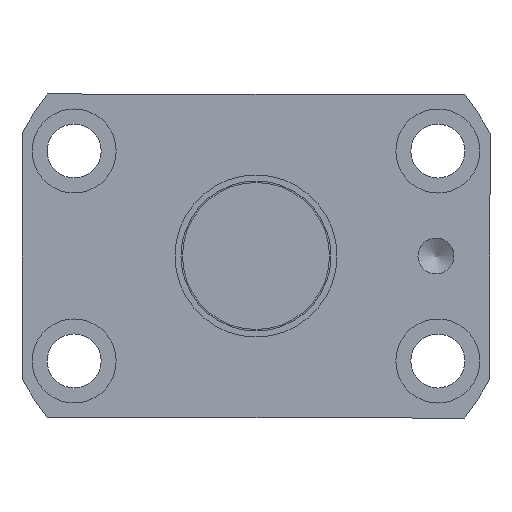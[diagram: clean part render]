
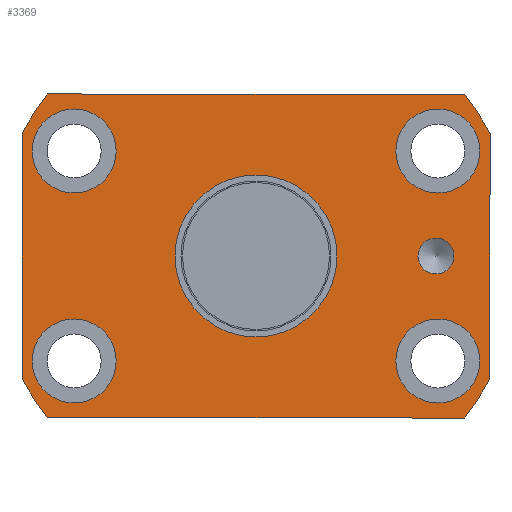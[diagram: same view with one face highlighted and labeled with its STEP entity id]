
A CAD part, left-side view. The second image highlights one B-rep face of the part: STEP entity #3369.
In plain terms, the highlighted planar face has unit normal (-1, 0, 0).
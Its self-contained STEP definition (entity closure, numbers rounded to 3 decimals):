
#375=CARTESIAN_POINT('',(723.315,-27.,0.));
#376=VERTEX_POINT('',#375);
#377=CARTESIAN_POINT('',(723.315,-30.0,0.));
#378=DIRECTION('',(1.0,0.0,0.0));
#379=DIRECTION('',(0.0,1.0,0.0));
#380=AXIS2_PLACEMENT_3D('',#377,#378,#379);
#381=CIRCLE('',#380,3.);
#382=EDGE_CURVE('',#376,#376,#381,.T.);
#516=CARTESIAN_POINT('',(723.315,37.311,-17.5));
#517=VERTEX_POINT('',#516);
#518=CARTESIAN_POINT('',(723.315,30.311,-17.5));
#519=DIRECTION('',(1.0,0.0,0.0));
#520=DIRECTION('',(0.0,1.0,0.0));
#521=AXIS2_PLACEMENT_3D('',#518,#519,#520);
#522=CIRCLE('',#521,7.);
#523=EDGE_CURVE('',#517,#517,#522,.T.);
#584=CARTESIAN_POINT('',(723.315,-23.311,17.5));
#585=VERTEX_POINT('',#584);
#586=CARTESIAN_POINT('',(723.315,-30.311,17.5));
#587=DIRECTION('',(1.0,0.0,0.0));
#588=DIRECTION('',(0.0,1.0,0.0));
#589=AXIS2_PLACEMENT_3D('',#586,#587,#588);
#590=CIRCLE('',#589,7.);
#591=EDGE_CURVE('',#585,#585,#590,.T.);
#652=CARTESIAN_POINT('',(723.315,-23.311,-17.5));
#653=VERTEX_POINT('',#652);
#654=CARTESIAN_POINT('',(723.315,-30.311,-17.5));
#655=DIRECTION('',(1.0,0.0,0.0));
#656=DIRECTION('',(0.0,1.0,0.0));
#657=AXIS2_PLACEMENT_3D('',#654,#655,#656);
#658=CIRCLE('',#657,7.);
#659=EDGE_CURVE('',#653,#653,#658,.T.);
#720=CARTESIAN_POINT('',(723.315,37.311,17.5));
#721=VERTEX_POINT('',#720);
#722=CARTESIAN_POINT('',(723.315,30.311,17.5));
#723=DIRECTION('',(1.0,0.0,0.0));
#724=DIRECTION('',(0.0,1.0,0.0));
#725=AXIS2_PLACEMENT_3D('',#722,#723,#724);
#726=CIRCLE('',#725,7.);
#727=EDGE_CURVE('',#721,#721,#726,.T.);
#3068=CARTESIAN_POINT('',(723.315,-39.,20.372));
#3069=VERTEX_POINT('',#3068);
#3076=CARTESIAN_POINT('',(723.315,-39.0,-20.372));
#3077=VERTEX_POINT('',#3076);
#3078=CARTESIAN_POINT('',(723.315,-39.,20.372));
#3079=DIRECTION('',(0.0,0.0,-1.0));
#3080=VECTOR('',#3079,40.743);
#3081=LINE('',#3078,#3080);
#3082=EDGE_CURVE('',#3069,#3077,#3081,.T.);
#3099=CARTESIAN_POINT('',(723.315,-34.742,27.));
#3100=VERTEX_POINT('',#3099);
#3107=CARTESIAN_POINT('',(723.315,0.,0.0));
#3108=DIRECTION('',(1.0,0.0,0.0));
#3109=DIRECTION('',(0.0,1.0,0.0));
#3110=AXIS2_PLACEMENT_3D('',#3107,#3108,#3109);
#3111=CIRCLE('',#3110,44.0);
#3112=EDGE_CURVE('',#3100,#3069,#3111,.T.);
#3124=CARTESIAN_POINT('',(723.315,34.742,27.));
#3125=VERTEX_POINT('',#3124);
#3132=CARTESIAN_POINT('',(723.315,34.742,27.));
#3133=DIRECTION('',(0.0,-1.0,0.0));
#3134=VECTOR('',#3133,69.484);
#3135=LINE('',#3132,#3134);
#3136=EDGE_CURVE('',#3125,#3100,#3135,.T.);
#3148=CARTESIAN_POINT('',(723.315,-34.742,-27.));
#3149=VERTEX_POINT('',#3148);
#3156=CARTESIAN_POINT('',(723.315,34.742,-27.));
#3157=VERTEX_POINT('',#3156);
#3158=CARTESIAN_POINT('',(723.315,-34.742,-27.));
#3159=DIRECTION('',(0.0,1.0,0.0));
#3160=VECTOR('',#3159,69.484);
#3161=LINE('',#3158,#3160);
#3162=EDGE_CURVE('',#3149,#3157,#3161,.T.);
#3179=CARTESIAN_POINT('',(723.315,39.,20.372));
#3180=VERTEX_POINT('',#3179);
#3187=CARTESIAN_POINT('',(723.315,0.,0.0));
#3188=DIRECTION('',(1.0,0.0,0.0));
#3189=DIRECTION('',(0.0,1.0,0.0));
#3190=AXIS2_PLACEMENT_3D('',#3187,#3188,#3189);
#3191=CIRCLE('',#3190,44.0);
#3192=EDGE_CURVE('',#3180,#3125,#3191,.T.);
#3204=CARTESIAN_POINT('',(723.315,39.,-20.372));
#3205=VERTEX_POINT('',#3204);
#3212=CARTESIAN_POINT('',(723.315,39.,-20.372));
#3213=DIRECTION('',(0.0,0.0,1.0));
#3214=VECTOR('',#3213,40.743);
#3215=LINE('',#3212,#3214);
#3216=EDGE_CURVE('',#3205,#3180,#3215,.T.);
#3229=CARTESIAN_POINT('',(723.315,0.,0.0));
#3230=DIRECTION('',(1.0,0.0,0.0));
#3231=DIRECTION('',(0.0,1.0,0.0));
#3232=AXIS2_PLACEMENT_3D('',#3229,#3230,#3231);
#3233=CIRCLE('',#3232,44.0);
#3234=EDGE_CURVE('',#3157,#3205,#3233,.T.);
#3247=CARTESIAN_POINT('',(723.315,0.,0.0));
#3248=DIRECTION('',(1.0,0.0,0.0));
#3249=DIRECTION('',(0.0,1.0,0.0));
#3250=AXIS2_PLACEMENT_3D('',#3247,#3248,#3249);
#3251=CIRCLE('',#3250,44.0);
#3252=EDGE_CURVE('',#3077,#3149,#3251,.T.);
#3263=CARTESIAN_POINT('',(723.315,13.5,0.0));
#3264=VERTEX_POINT('',#3263);
#3265=CARTESIAN_POINT('',(723.315,0.,0.0));
#3266=DIRECTION('',(1.0,0.0,0.0));
#3267=DIRECTION('',(0.0,1.0,0.0));
#3268=AXIS2_PLACEMENT_3D('',#3265,#3266,#3267);
#3269=CIRCLE('',#3268,13.5);
#3270=EDGE_CURVE('',#3264,#3264,#3269,.T.);
#3336=CARTESIAN_POINT('',(723.315,20.25,0.0));
#3337=DIRECTION('',(-1.0,0.0,0.0));
#3338=DIRECTION('',(0.0,0.0,1.0));
#3339=AXIS2_PLACEMENT_3D('',#3336,#3337,#3338);
#3340=PLANE('',#3339);
#3341=ORIENTED_EDGE('',*,*,#3162,.F.);
#3342=ORIENTED_EDGE('',*,*,#3252,.F.);
#3343=ORIENTED_EDGE('',*,*,#3082,.F.);
#3344=ORIENTED_EDGE('',*,*,#3112,.F.);
#3345=ORIENTED_EDGE('',*,*,#3136,.F.);
#3346=ORIENTED_EDGE('',*,*,#3192,.F.);
#3347=ORIENTED_EDGE('',*,*,#3216,.F.);
#3348=ORIENTED_EDGE('',*,*,#3234,.F.);
#3349=EDGE_LOOP('',(#3341,#3342,#3343,#3344,#3345,#3346,#3347,#3348));
#3350=FACE_OUTER_BOUND('',#3349,.T.);
#3351=ORIENTED_EDGE('',*,*,#382,.T.);
#3352=EDGE_LOOP('',(#3351));
#3353=FACE_BOUND('',#3352,.T.);
#3354=ORIENTED_EDGE('',*,*,#523,.T.);
#3355=EDGE_LOOP('',(#3354));
#3356=FACE_BOUND('',#3355,.T.);
#3357=ORIENTED_EDGE('',*,*,#591,.T.);
#3358=EDGE_LOOP('',(#3357));
#3359=FACE_BOUND('',#3358,.T.);
#3360=ORIENTED_EDGE('',*,*,#659,.T.);
#3361=EDGE_LOOP('',(#3360));
#3362=FACE_BOUND('',#3361,.T.);
#3363=ORIENTED_EDGE('',*,*,#727,.T.);
#3364=EDGE_LOOP('',(#3363));
#3365=FACE_BOUND('',#3364,.T.);
#3366=ORIENTED_EDGE('',*,*,#3270,.T.);
#3367=EDGE_LOOP('',(#3366));
#3368=FACE_BOUND('',#3367,.T.);
#3369=ADVANCED_FACE('',(#3350,#3353,#3356,#3359,#3362,#3365,#3368),#3340,.T.);
